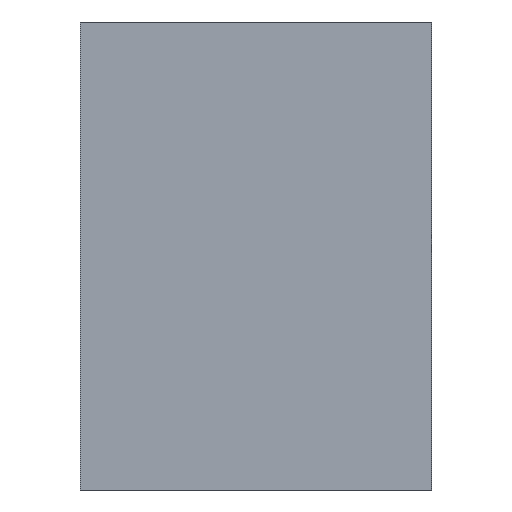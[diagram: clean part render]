
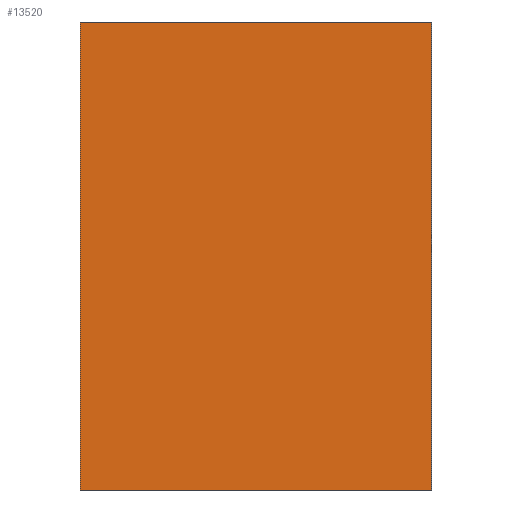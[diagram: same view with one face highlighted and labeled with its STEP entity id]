
A CAD part, left-side view. The second image highlights one B-rep face of the part: STEP entity #13520.
In plain terms, the highlighted planar face has unit normal (-1, 0, 0).
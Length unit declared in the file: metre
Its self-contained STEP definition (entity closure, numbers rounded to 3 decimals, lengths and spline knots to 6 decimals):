
#4310=DIRECTION('',(0.,1.,0.));
#4311=VECTOR('',#4310,0.03);
#4312=CARTESIAN_POINT('',(-0.03,-0.03,0.02));
#4313=LINE('',#4312,#4311);
#4314=DIRECTION('',(0.,0.,1.));
#4315=VECTOR('',#4314,0.04);
#4316=CARTESIAN_POINT('',(-0.03,-0.03,-0.02));
#4317=LINE('',#4316,#4315);
#4318=DIRECTION('',(0.,-1.,0.));
#4319=VECTOR('',#4318,0.03);
#4320=CARTESIAN_POINT('',(-0.03,0.,-0.02));
#4321=LINE('',#4320,#4319);
#4322=DIRECTION('',(0.,0.,-1.));
#4323=VECTOR('',#4322,0.04);
#4324=CARTESIAN_POINT('',(-0.03,0.,0.02));
#4325=LINE('',#4324,#4323);
#5951=CARTESIAN_POINT('',(-0.03,0.,0.02));
#5952=CARTESIAN_POINT('',(-0.03,0.,-0.02));
#5953=VERTEX_POINT('',#5951);
#5954=VERTEX_POINT('',#5952);
#5955=CARTESIAN_POINT('',(-0.03,-0.03,0.02));
#5956=VERTEX_POINT('',#5955);
#5957=CARTESIAN_POINT('',(-0.03,-0.03,-0.02));
#5958=VERTEX_POINT('',#5957);
#13508=CARTESIAN_POINT('',(-0.03,-0.03,-0.02));
#13509=DIRECTION('',(-1.,0.,0.));
#13510=DIRECTION('',(0.,0.,1.));
#13511=AXIS2_PLACEMENT_3D('',#13508,#13509,#13510);
#13512=PLANE('',#13511);
#13513=ORIENTED_EDGE('',*,*,#13463,.F.);
#13515=ORIENTED_EDGE('',*,*,#13514,.F.);
#13516=ORIENTED_EDGE('',*,*,#13494,.F.);
#13517=ORIENTED_EDGE('',*,*,#10221,.F.);
#13518=EDGE_LOOP('',(#13513,#13515,#13516,#13517));
#13519=FACE_OUTER_BOUND('',#13518,.F.);
#13520=ADVANCED_FACE('',(#13519),#13512,.T.);
#10221=EDGE_CURVE('',#5953,#5954,#4325,.T.);
#13463=EDGE_CURVE('',#5956,#5953,#4313,.T.);
#13494=EDGE_CURVE('',#5954,#5958,#4321,.T.);
#13514=EDGE_CURVE('',#5958,#5956,#4317,.T.);
